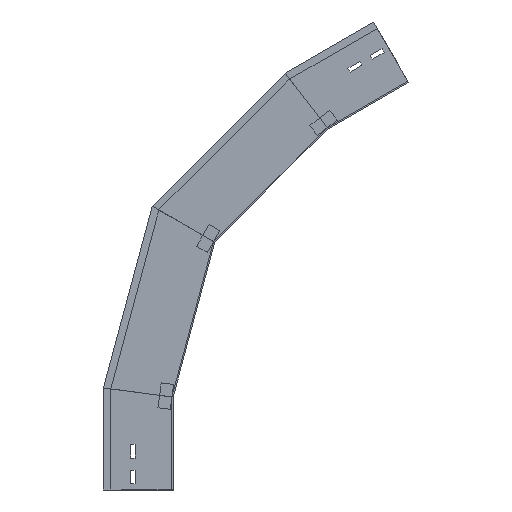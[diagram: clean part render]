
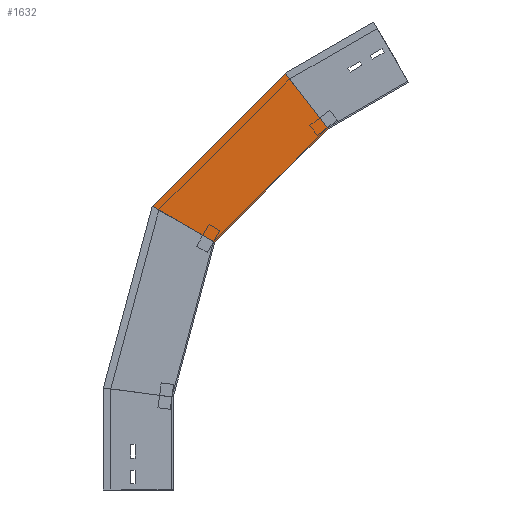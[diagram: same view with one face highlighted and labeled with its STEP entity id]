
A CAD part, left-side view. The second image highlights one B-rep face of the part: STEP entity #1632.
In plain terms, the highlighted planar face has unit normal (-1, 0, 0) as drawn and (1, 0, 0) by its records, which use the part's own axes.
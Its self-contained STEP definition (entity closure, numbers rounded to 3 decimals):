
#14 = VERTEX_POINT ( 'NONE', #1244 ) ;
#49 = EDGE_CURVE ( 'NONE', #1257, #560, #906, .T. ) ;
#79 = VECTOR ( 'NONE', #1551, 1000. ) ;
#111 = LINE ( 'NONE', #1154, #79 ) ;
#117 = VECTOR ( 'NONE', #637, 1000. ) ;
#123 = EDGE_CURVE ( 'NONE', #1257, #14, #1434, .T. ) ;
#158 = ORIENTED_EDGE ( 'NONE', *, *, #878, .F. ) ;
#168 = AXIS2_PLACEMENT_3D ( 'NONE', #923, #1272, #776 ) ;
#273 = CARTESIAN_POINT ( 'NONE',  ( 0., -67.034, 400.175 ) ) ;
#274 = VERTEX_POINT ( 'NONE', #273 ) ;
#353 = DIRECTION ( 'NONE',  ( 0., -0.866, -0.5 ) ) ;
#369 = PLANE ( 'NONE',  #168 ) ;
#421 = LINE ( 'NONE', #1007, #876 ) ;
#551 = CARTESIAN_POINT ( 'NONE',  ( 0., 112.909, 163.284 ) ) ;
#560 = VERTEX_POINT ( 'NONE', #582 ) ;
#582 = CARTESIAN_POINT ( 'NONE',  ( 0., 0., 150. ) ) ;
#635 = EDGE_CURVE ( 'NONE', #14, #274, #421, .T. ) ;
#637 = DIRECTION ( 'NONE',  ( 0., -0.991, -0.131 ) ) ;
#665 = ORIENTED_EDGE ( 'NONE', *, *, #123, .T. ) ;
#683 = VECTOR ( 'NONE', #1045, 1000. ) ;
#776 = DIRECTION ( 'NONE',  ( 0., 0., -1. ) ) ;
#828 = EDGE_LOOP ( 'NONE', ( #665, #1534, #158, #1311 ) ) ;
#876 = VECTOR ( 'NONE', #353, 1000. ) ;
#878 = EDGE_CURVE ( 'NONE', #560, #274, #111, .T. ) ;
#885 = FACE_OUTER_BOUND ( 'NONE', #828, .T. ) ;
#906 = LINE ( 'NONE', #1039, #117 ) ;
#923 = CARTESIAN_POINT ( 'NONE',  ( 0., 4.243, 134.167 ) ) ;
#1007 = CARTESIAN_POINT ( 'NONE',  ( 0., -128.762, 364.536 ) ) ;
#1039 = CARTESIAN_POINT ( 'NONE',  ( 0., -19.411, 147.444 ) ) ;
#1045 = DIRECTION ( 'NONE',  ( 0., -0.259, 0.966 ) ) ;
#1154 = CARTESIAN_POINT ( 'NONE',  ( 0., 4.243, 134.167 ) ) ;
#1244 = CARTESIAN_POINT ( 'NONE',  ( 0., 33.831, 458.409 ) ) ;
#1257 = VERTEX_POINT ( 'NONE', #1423 ) ;
#1272 = DIRECTION ( 'NONE',  ( 1., 0., 0. ) ) ;
#1311 = ORIENTED_EDGE ( 'NONE', *, *, #49, .F. ) ;
#1423 = CARTESIAN_POINT ( 'NONE',  ( 0., 112.5, 164.811 ) ) ;
#1434 = LINE ( 'NONE', #551, #683 ) ;
#1534 = ORIENTED_EDGE ( 'NONE', *, *, #635, .T. ) ;
#1551 = DIRECTION ( 'NONE',  ( 0., -0.259, 0.966 ) ) ;
#1632 = ADVANCED_FACE ( 'NONE', ( #885 ), #369, .T. ) ;
